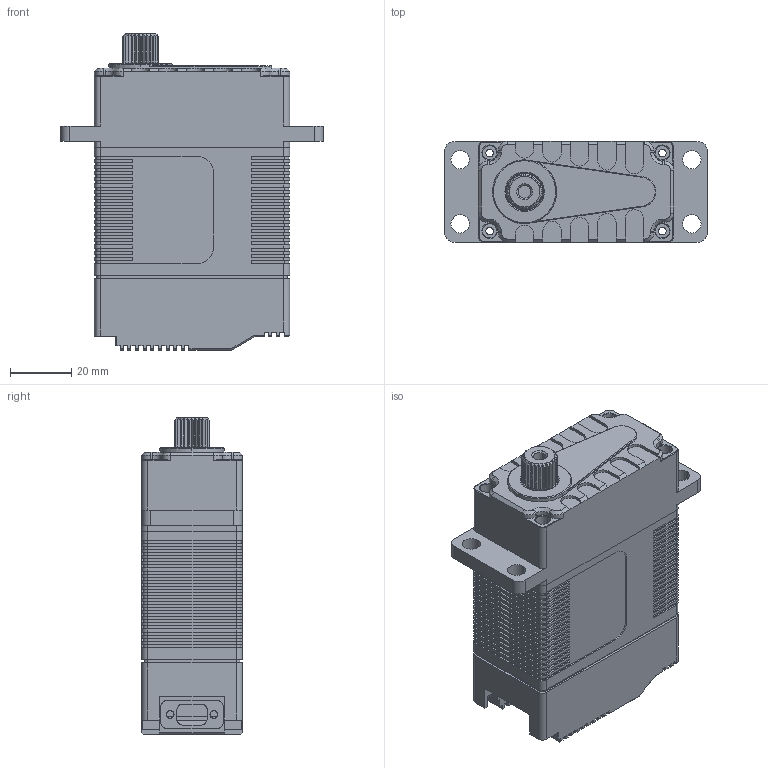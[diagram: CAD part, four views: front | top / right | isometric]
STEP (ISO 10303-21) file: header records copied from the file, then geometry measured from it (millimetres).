
FILE_DESCRIPTION (( 'STEP AP214' ), '1' );
FILE_NAME ('X30-28-180 V2.0 _DM.STEP', '2020-08-10T09:05:09', ( '微软用户' ), ( '微软中国' ), 'SwSTEP 2.0', 'SolidWorks 2016', '' );
FILE_SCHEMA (( 'AUTOMOTIVE_DESIGN' ));
Length unit declared in the file: millimetre
Products named in the file (2): X30-28-180 V2.0 _DM
Bounding box: 86 x 33 x 103.85 mm (x, y, z)
Surface area: 33387.8 mm2 (no closed solid volume)
Topology: 0 solids, 8 shells, 977 faces, 2908 edges, 1942 vertices
Faces by surface type: plane 616, cylinder 314, cone 47
Entity records: 45077 total; most frequent: CARTESIAN_POINT 8365, ORIENTED_EDGE 5556, DIRECTION 5095, EDGE_CURVE 2908, LINE 2007, VECTOR 2007, VERTEX_POINT 1942, AXIS2_PLACEMENT_3D 1544
